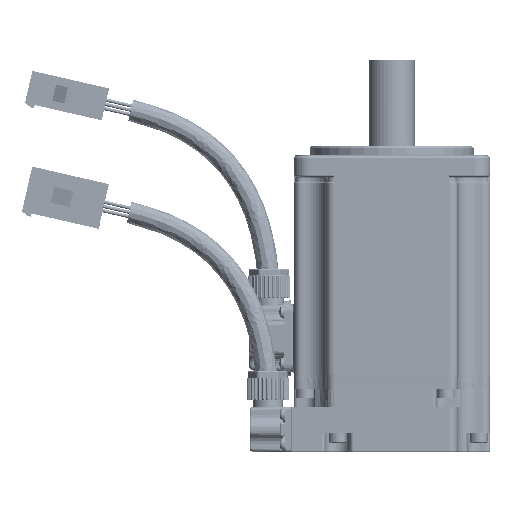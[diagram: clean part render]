
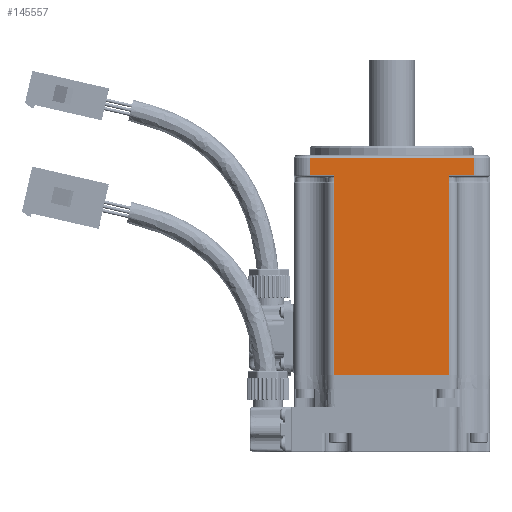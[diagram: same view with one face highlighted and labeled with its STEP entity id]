
A CAD part, front view. The second image highlights one B-rep face of the part: STEP entity #145557.
In plain terms, the highlighted planar face has unit normal (0, -1, 0) as drawn and (1, 0, 0) by its records, which use the part's own axes.
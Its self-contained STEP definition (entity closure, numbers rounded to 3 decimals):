
#2907 = VERTEX_POINT ( 'NONE', #158527 ) ;
#3761 = VERTEX_POINT ( 'NONE', #166575 ) ;
#9756 = CARTESIAN_POINT ( 'NONE',  ( 30., 17.6, 60.7 ) ) ;
#11870 = LINE ( 'NONE', #9756, #147118 ) ;
#12267 = ORIENTED_EDGE ( 'NONE', *, *, #161861, .T. ) ;
#13732 = VERTEX_POINT ( 'NONE', #141986 ) ;
#19024 = VERTEX_POINT ( 'NONE', #181062 ) ;
#23424 = CARTESIAN_POINT ( 'NONE',  ( 30., 25., 66.5 ) ) ;
#24728 = DIRECTION ( 'NONE',  ( 0., 0., 1. ) ) ;
#28982 = CARTESIAN_POINT ( 'NONE',  ( 30., -17.6, 61.2 ) ) ;
#29576 = CARTESIAN_POINT ( 'NONE',  ( 30., 25., 61.2 ) ) ;
#30652 = VECTOR ( 'NONE', #204100, 1000. ) ;
#33773 = CARTESIAN_POINT ( 'NONE',  ( 30., 17.6, 0. ) ) ;
#36809 = ORIENTED_EDGE ( 'NONE', *, *, #49200, .T. ) ;
#43397 = ORIENTED_EDGE ( 'NONE', *, *, #142909, .T. ) ;
#43924 = VERTEX_POINT ( 'NONE', #23424 ) ;
#44057 = DIRECTION ( 'NONE',  ( 0., 1., 0. ) ) ;
#44503 = LINE ( 'NONE', #109872, #30652 ) ;
#46373 = EDGE_CURVE ( 'NONE', #76299, #95952, #159688, .T. ) ;
#47059 = CARTESIAN_POINT ( 'NONE',  ( 30., -17.6, 0. ) ) ;
#49200 = EDGE_CURVE ( 'NONE', #2907, #3761, #58567, .T. ) ;
#52696 = LINE ( 'NONE', #198338, #77704 ) ;
#57086 = ORIENTED_EDGE ( 'NONE', *, *, #46373, .T. ) ;
#58567 = LINE ( 'NONE', #29576, #93144 ) ;
#59096 = CARTESIAN_POINT ( 'NONE',  ( 30., -30., 0. ) ) ;
#60417 = EDGE_CURVE ( 'NONE', #13732, #19024, #62189, .T. ) ;
#62189 = LINE ( 'NONE', #28982, #69953 ) ;
#63830 = CARTESIAN_POINT ( 'NONE',  ( 30., 17.6, 60.7 ) ) ;
#69953 = VECTOR ( 'NONE', #208841, 1000. ) ;
#74204 = VECTOR ( 'NONE', #209770, 1000. ) ;
#76299 = VERTEX_POINT ( 'NONE', #47059 ) ;
#77704 = VECTOR ( 'NONE', #196224, 1000. ) ;
#77823 = ORIENTED_EDGE ( 'NONE', *, *, #181170, .T. ) ;
#85475 = DIRECTION ( 'NONE',  ( 0., 0., 1. ) ) ;
#93144 = VECTOR ( 'NONE', #206280, 1000. ) ;
#94840 = ORIENTED_EDGE ( 'NONE', *, *, #197159, .T. ) ;
#95952 = VERTEX_POINT ( 'NONE', #33773 ) ;
#100397 = VERTEX_POINT ( 'NONE', #117731 ) ;
#100412 = PLANE ( 'NONE',  #187591 ) ;
#106671 = CARTESIAN_POINT ( 'NONE',  ( 30., -25., 66.5 ) ) ;
#109872 = CARTESIAN_POINT ( 'NONE',  ( 30., -17.6, 60.7 ) ) ;
#112858 = VECTOR ( 'NONE', #44057, 1000. ) ;
#116508 = FACE_OUTER_BOUND ( 'NONE', #127534, .T. ) ;
#116742 = ORIENTED_EDGE ( 'NONE', *, *, #60417, .T. ) ;
#117569 = CARTESIAN_POINT ( 'NONE',  ( 30., -30., 60.7 ) ) ;
#117731 = CARTESIAN_POINT ( 'NONE',  ( 30., 17.6, 58.7 ) ) ;
#127534 = EDGE_LOOP ( 'NONE', ( #94840, #116742, #43397, #77823, #57086, #176474, #150940, #36809, #168305, #12267 ) ) ;
#131516 = LINE ( 'NONE', #198943, #201133 ) ;
#137745 = EDGE_CURVE ( 'NONE', #95952, #100397, #210483, .T. ) ;
#141986 = CARTESIAN_POINT ( 'NONE',  ( 30., -25., 61.2 ) ) ;
#142909 = EDGE_CURVE ( 'NONE', #19024, #194840, #196888, .T. ) ;
#145557 = ADVANCED_FACE ( 'NONE', ( #116508 ), #100412, .F. ) ;
#147118 = VECTOR ( 'NONE', #24728, 1000. ) ;
#150940 = ORIENTED_EDGE ( 'NONE', *, *, #204140, .T. ) ;
#158527 = CARTESIAN_POINT ( 'NONE',  ( 30., 17.6, 61.2 ) ) ;
#158804 = VECTOR ( 'NONE', #164563, 1000. ) ;
#159688 = LINE ( 'NONE', #59096, #112858 ) ;
#161861 = EDGE_CURVE ( 'NONE', #43924, #209294, #196702, .T. ) ;
#162763 = CARTESIAN_POINT ( 'NONE',  ( 30., -17.6, 58.7 ) ) ;
#164563 = DIRECTION ( 'NONE',  ( 0., -1., 0. ) ) ;
#164654 = DIRECTION ( 'NONE',  ( 0., 0., 1. ) ) ;
#166575 = CARTESIAN_POINT ( 'NONE',  ( 30., 25., 61.2 ) ) ;
#168305 = ORIENTED_EDGE ( 'NONE', *, *, #199120, .T. ) ;
#176474 = ORIENTED_EDGE ( 'NONE', *, *, #137745, .T. ) ;
#179424 = DIRECTION ( 'NONE',  ( 0., 0., 1. ) ) ;
#181062 = CARTESIAN_POINT ( 'NONE',  ( 30., -17.6, 61.2 ) ) ;
#181170 = EDGE_CURVE ( 'NONE', #194840, #76299, #44503, .T. ) ;
#187591 = AXIS2_PLACEMENT_3D ( 'NONE', #117569, #195730, #164654 ) ;
#192677 = CARTESIAN_POINT ( 'NONE',  ( 30., -17.6, 60.7 ) ) ;
#194840 = VERTEX_POINT ( 'NONE', #162763 ) ;
#195638 = CARTESIAN_POINT ( 'NONE',  ( 30., -25., 66.5 ) ) ;
#195730 = DIRECTION ( 'NONE',  ( -1., 0., 0. ) ) ;
#196224 = DIRECTION ( 'NONE',  ( 0., 0., -1. ) ) ;
#196702 = LINE ( 'NONE', #195638, #158804 ) ;
#196888 = LINE ( 'NONE', #192677, #74204 ) ;
#197159 = EDGE_CURVE ( 'NONE', #209294, #13732, #52696, .T. ) ;
#198338 = CARTESIAN_POINT ( 'NONE',  ( 30., -25., 60.7 ) ) ;
#198943 = CARTESIAN_POINT ( 'NONE',  ( 30., 25., 60.7 ) ) ;
#199120 = EDGE_CURVE ( 'NONE', #3761, #43924, #131516, .T. ) ;
#201133 = VECTOR ( 'NONE', #85475, 1000. ) ;
#203536 = VECTOR ( 'NONE', #179424, 1000. ) ;
#204100 = DIRECTION ( 'NONE',  ( 0., 0., -1. ) ) ;
#204140 = EDGE_CURVE ( 'NONE', #100397, #2907, #11870, .T. ) ;
#206280 = DIRECTION ( 'NONE',  ( 0., 1., 0. ) ) ;
#208841 = DIRECTION ( 'NONE',  ( 0., 1., 0. ) ) ;
#209294 = VERTEX_POINT ( 'NONE', #106671 ) ;
#209770 = DIRECTION ( 'NONE',  ( 0., 0., -1. ) ) ;
#210483 = LINE ( 'NONE', #63830, #203536 ) ;
